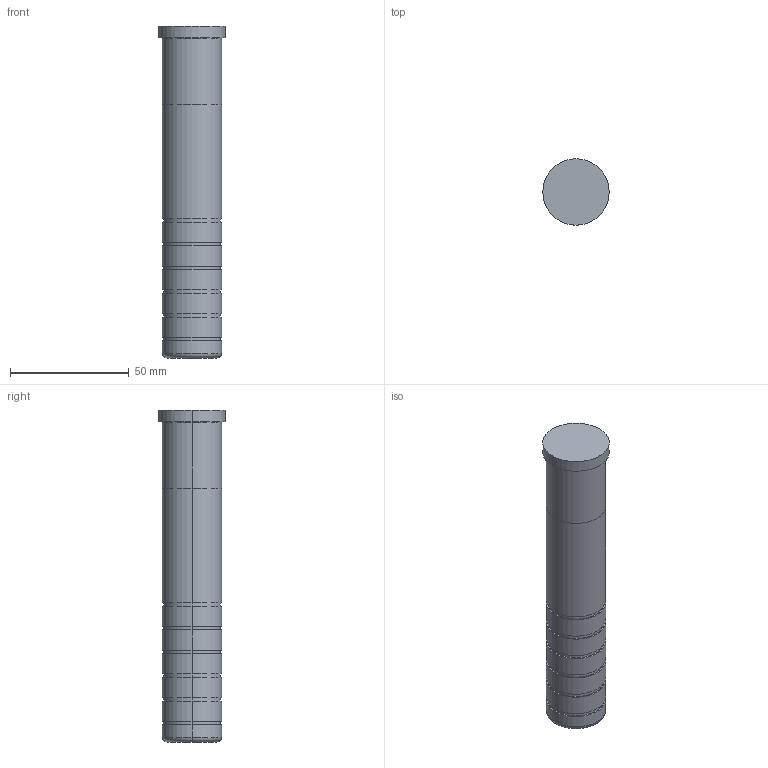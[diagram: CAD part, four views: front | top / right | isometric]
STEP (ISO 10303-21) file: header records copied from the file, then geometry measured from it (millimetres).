
FILE_DESCRIPTION(/* description */ (''),/* implementation_level */ '2;1');
FILE_NAME(/* name */ '3d_sgoh25-140_05207_r00.stp',/* time_stamp */ '2011-01-10T14:11:08+09:00',/* author */ ('MISUMI'),/* organization */ (''),/* preprocessor_version */ 'ST-DEVELOPER v11',/* originating_system */ 'UGS - NX 5.0',/* authorisation */ '');
FILE_SCHEMA (('CONFIG_CONTROL_DESIGN'));
Length unit declared in the file: millimetre
Products named in the file (1): 3d_sgoh25-140_05207_r00
Bounding box: 28 x 28 x 140 mm (x, y, z)
Volume: 68936.4 mm3; surface area: 12630.1 mm2
Topology: 1 solids, 1 shells, 49 faces, 96 edges, 62 vertices
Faces by surface type: cylinder 30, plane 15, torus 4
Entity records: 1374 total; most frequent: DIRECTION 262, CARTESIAN_POINT 208, ORIENTED_EDGE 192, AXIS2_PLACEMENT_3D 116, EDGE_CURVE 96, CIRCLE 66, EDGE_LOOP 62, VERTEX_POINT 62
